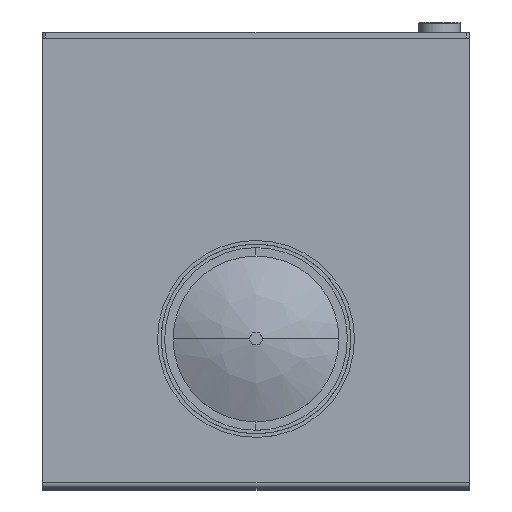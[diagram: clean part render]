
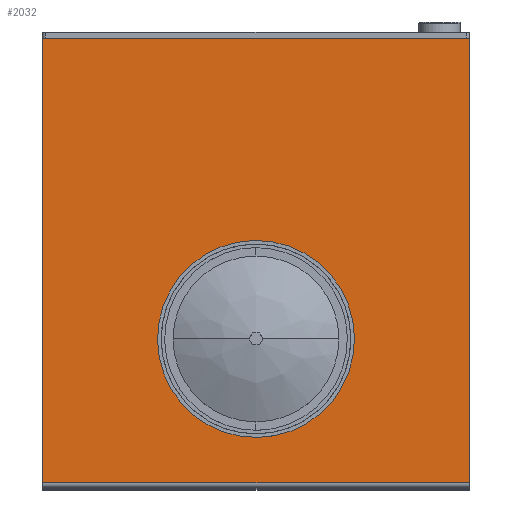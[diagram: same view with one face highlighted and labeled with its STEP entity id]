
A CAD part, top view. The second image highlights one B-rep face of the part: STEP entity #2032.
In plain terms, the highlighted planar face has unit normal (0, 0, 1) as drawn and (-1, 0, 0) by its records, which use the part's own axes.
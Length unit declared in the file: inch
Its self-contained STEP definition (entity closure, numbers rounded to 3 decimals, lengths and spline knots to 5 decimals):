
#151 = CARTESIAN_POINT ( 'NONE',  ( -0.375, 12.25, 25. ) ) ;
#310 = EDGE_LOOP ( 'NONE', ( #8262, #8508 ) ) ;
#396 = ORIENTED_EDGE ( 'NONE', *, *, #1667, .T. ) ;
#451 = CARTESIAN_POINT ( 'NONE',  ( -0.375, 12.25, 18. ) ) ;
#531 = VERTEX_POINT ( 'NONE', #151 ) ;
#833 = CARTESIAN_POINT ( 'NONE',  ( -0.375, 0.125, 36. ) ) ;
#875 = DIRECTION ( 'NONE',  ( 0., 0., -1. ) ) ;
#888 = ORIENTED_EDGE ( 'NONE', *, *, #3129, .T. ) ;
#971 = ORIENTED_EDGE ( 'NONE', *, *, #8362, .F. ) ;
#1043 = VECTOR ( 'NONE', #1700, 39.37008 ) ;
#1258 = DIRECTION ( 'NONE',  ( 0., 0., -1. ) ) ;
#1332 = DIRECTION ( 'NONE',  ( 0., 0., 1. ) ) ;
#1390 = CARTESIAN_POINT ( 'NONE',  ( -0.375, 37.62, 36. ) ) ;
#1667 = EDGE_CURVE ( 'NONE', #3388, #8626, #3963, .T. ) ;
#1700 = DIRECTION ( 'NONE',  ( 0., 0., -1. ) ) ;
#1812 = AXIS2_PLACEMENT_3D ( 'NONE', #8974, #2771, #1258 ) ;
#1920 = VECTOR ( 'NONE', #875, 39.37008 ) ;
#2032 = ADVANCED_FACE ( 'NONE', ( #2252, #7346 ), #2504, .F. ) ;
#2252 = FACE_BOUND ( 'NONE', #310, .T. ) ;
#2328 = EDGE_LOOP ( 'NONE', ( #396, #971, #2487, #888 ) ) ;
#2433 = CARTESIAN_POINT ( 'NONE',  ( -0.375, 37.62, 0. ) ) ;
#2487 = ORIENTED_EDGE ( 'NONE', *, *, #6153, .F. ) ;
#2504 = PLANE ( 'NONE',  #1812 ) ;
#2703 = DIRECTION ( 'NONE',  ( 0., -1., 0. ) ) ;
#2771 = DIRECTION ( 'NONE',  ( 1., 0., 0. ) ) ;
#2943 = CARTESIAN_POINT ( 'NONE',  ( -0.375, 0.125, 36. ) ) ;
#3129 = EDGE_CURVE ( 'NONE', #8844, #3388, #7451, .T. ) ;
#3147 = DIRECTION ( 'NONE',  ( 0., 0., 1. ) ) ;
#3223 = CARTESIAN_POINT ( 'NONE',  ( -0.375, 0.125, 0. ) ) ;
#3388 = VERTEX_POINT ( 'NONE', #2433 ) ;
#3919 = DIRECTION ( 'NONE',  ( -1., 0., 0. ) ) ;
#3963 = LINE ( 'NONE', #4800, #4194 ) ;
#4194 = VECTOR ( 'NONE', #5661, 39.37008 ) ;
#4800 = CARTESIAN_POINT ( 'NONE',  ( -0.375, 0., 0. ) ) ;
#5230 = VECTOR ( 'NONE', #2703, 39.37008 ) ;
#5546 = LINE ( 'NONE', #6075, #5230 ) ;
#5661 = DIRECTION ( 'NONE',  ( 0., -1., 0. ) ) ;
#6036 = CIRCLE ( 'NONE', #8552, 7. ) ;
#6075 = CARTESIAN_POINT ( 'NONE',  ( -0.375, 0., 36. ) ) ;
#6153 = EDGE_CURVE ( 'NONE', #8844, #9003, #5546, .T. ) ;
#6614 = EDGE_CURVE ( 'NONE', #531, #7364, #8185, .T. ) ;
#6729 = DIRECTION ( 'NONE',  ( -1., 0., 0. ) ) ;
#7222 = CARTESIAN_POINT ( 'NONE',  ( -0.375, 37.62, 36. ) ) ;
#7278 = AXIS2_PLACEMENT_3D ( 'NONE', #8872, #6729, #1332 ) ;
#7346 = FACE_OUTER_BOUND ( 'NONE', #2328, .T. ) ;
#7364 = VERTEX_POINT ( 'NONE', #8095 ) ;
#7451 = LINE ( 'NONE', #7222, #1043 ) ;
#8017 = LINE ( 'NONE', #2943, #1920 ) ;
#8095 = CARTESIAN_POINT ( 'NONE',  ( -0.375, 12.25, 11. ) ) ;
#8185 = CIRCLE ( 'NONE', #7278, 7. ) ;
#8262 = ORIENTED_EDGE ( 'NONE', *, *, #6614, .F. ) ;
#8362 = EDGE_CURVE ( 'NONE', #9003, #8626, #8017, .T. ) ;
#8508 = ORIENTED_EDGE ( 'NONE', *, *, #8655, .F. ) ;
#8552 = AXIS2_PLACEMENT_3D ( 'NONE', #451, #3919, #3147 ) ;
#8626 = VERTEX_POINT ( 'NONE', #3223 ) ;
#8655 = EDGE_CURVE ( 'NONE', #7364, #531, #6036, .T. ) ;
#8844 = VERTEX_POINT ( 'NONE', #1390 ) ;
#8872 = CARTESIAN_POINT ( 'NONE',  ( -0.375, 12.25, 18. ) ) ;
#8974 = CARTESIAN_POINT ( 'NONE',  ( -0.375, 0., 36. ) ) ;
#9003 = VERTEX_POINT ( 'NONE', #833 ) ;
